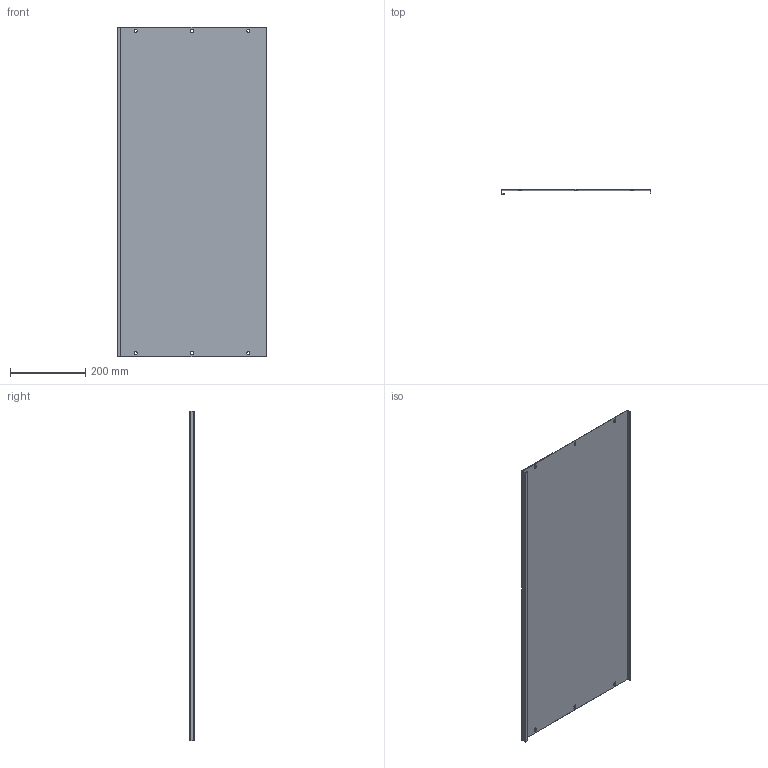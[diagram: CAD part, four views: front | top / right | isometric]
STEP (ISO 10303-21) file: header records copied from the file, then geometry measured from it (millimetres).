
FILE_DESCRIPTION (( 'STEP AP214' ), '1' );
FILE_NAME ('FO-00-PVS-040-100 Ïëàñòðîí ãëóõîé âíóòðåííèé 400õ1000.STEP', '2025-08-26T08:59:29', ( '' ), ( '' ), 'SwSTEP 2.0', 'SolidWorks 2023', '' );
FILE_SCHEMA (( 'AUTOMOTIVE_DESIGN' ));
Length unit declared in the file: millimetre
Products named in the file (1): FO-00-PVS-040-100 Пластрон глухой внутренний 400х1000
Bounding box: 398 x 12.5 x 879 mm (x, y, z)
Volume: 558508.6 mm3; surface area: 748839.1 mm2
Topology: 1 solids, 1 shells, 52 faces, 150 edges, 100 vertices
Faces by surface type: plane 34, cylinder 18
Entity records: 1757 total; most frequent: CARTESIAN_POINT 303, ORIENTED_EDGE 300, DIRECTION 292, EDGE_CURVE 150, LINE 114, VECTOR 114, VERTEX_POINT 100, AXIS2_PLACEMENT_3D 89
